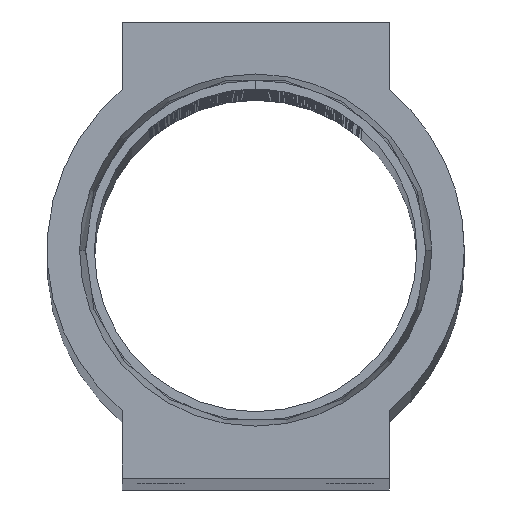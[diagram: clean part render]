
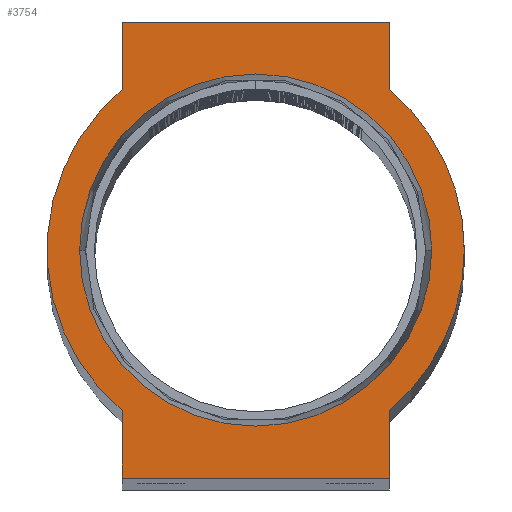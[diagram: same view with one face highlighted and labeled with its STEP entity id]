
A CAD part, top view. The second image highlights one B-rep face of the part: STEP entity #3754.
In plain terms, the highlighted planar face has unit normal (0, 0, 1).
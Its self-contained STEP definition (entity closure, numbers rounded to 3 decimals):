
#132 = EDGE_CURVE ( 'NONE', #14089, #6619, #5838, .T. ) ;
#184 = FACE_OUTER_BOUND ( 'NONE', #6209, .T. ) ;
#244 = CARTESIAN_POINT ( 'NONE',  ( 12., 14.407, 0. ) ) ;
#486 = DIRECTION ( 'NONE',  ( 0., 0., 1. ) ) ;
#906 = CARTESIAN_POINT ( 'NONE',  ( -12., 20.5, 0. ) ) ;
#1154 = EDGE_CURVE ( 'NONE', #11683, #10888, #9514, .T. ) ;
#1325 = ORIENTED_EDGE ( 'NONE', *, *, #5153, .T. ) ;
#1360 = DIRECTION ( 'NONE',  ( 0., 0., 1. ) ) ;
#1711 = DIRECTION ( 'NONE',  ( 1., 0., 0. ) ) ;
#2134 = CARTESIAN_POINT ( 'NONE',  ( 18.75, 0., 0. ) ) ;
#2178 = CARTESIAN_POINT ( 'NONE',  ( 0., 0., 0. ) ) ;
#2513 = DIRECTION ( 'NONE',  ( 0., 0., 1. ) ) ;
#2814 = LINE ( 'NONE', #11411, #13717 ) ;
#2864 = DIRECTION ( 'NONE',  ( 1., 0., 0. ) ) ;
#3545 = CARTESIAN_POINT ( 'NONE',  ( -12., 14.407, 0. ) ) ;
#3754 = ADVANCED_FACE ( 'NONE', ( #10059, #184 ), #9064, .T. ) ;
#3857 = VERTEX_POINT ( 'NONE', #2134 ) ;
#3893 = LINE ( 'NONE', #10435, #9406 ) ;
#4142 = ORIENTED_EDGE ( 'NONE', *, *, #1154, .F. ) ;
#4221 = ORIENTED_EDGE ( 'NONE', *, *, #11965, .T. ) ;
#4672 = EDGE_CURVE ( 'NONE', #7633, #13474, #9905, .T. ) ;
#4834 = EDGE_CURVE ( 'NONE', #10888, #11683, #10007, .T. ) ;
#5037 = DIRECTION ( 'NONE',  ( 0., -1., 0. ) ) ;
#5153 = EDGE_CURVE ( 'NONE', #6619, #9494, #2814, .T. ) ;
#5273 = AXIS2_PLACEMENT_3D ( 'NONE', #2178, #1360, #6854 ) ;
#5278 = DIRECTION ( 'NONE',  ( 1., 0., 0. ) ) ;
#5363 = CARTESIAN_POINT ( 'NONE',  ( 12., -14.407, 0. ) ) ;
#5427 = CARTESIAN_POINT ( 'NONE',  ( 12., 20.5, 0. ) ) ;
#5633 = DIRECTION ( 'NONE',  ( 0., 1., 0. ) ) ;
#5647 = ORIENTED_EDGE ( 'NONE', *, *, #13699, .T. ) ;
#5838 = LINE ( 'NONE', #7162, #13850 ) ;
#5969 = ORIENTED_EDGE ( 'NONE', *, *, #4672, .T. ) ;
#6096 = AXIS2_PLACEMENT_3D ( 'NONE', #7532, #9885, #5278 ) ;
#6209 = EDGE_LOOP ( 'NONE', ( #11758, #8629, #1325, #5647, #4221, #13199, #5969, #8223, #8131 ) ) ;
#6242 = EDGE_CURVE ( 'NONE', #13474, #3857, #9657, .T. ) ;
#6365 = DIRECTION ( 'NONE',  ( 0., 1., 0. ) ) ;
#6619 = VERTEX_POINT ( 'NONE', #906 ) ;
#6846 = CARTESIAN_POINT ( 'NONE',  ( 0., 0., 0. ) ) ;
#6854 = DIRECTION ( 'NONE',  ( 1., 0., 0. ) ) ;
#7162 = CARTESIAN_POINT ( 'NONE',  ( -12., 20.5, 0. ) ) ;
#7484 = CARTESIAN_POINT ( 'NONE',  ( 12., -20.5, 0. ) ) ;
#7525 = CARTESIAN_POINT ( 'NONE',  ( -15.827, 0., 0. ) ) ;
#7532 = CARTESIAN_POINT ( 'NONE',  ( 0., 0., 0. ) ) ;
#7627 = VERTEX_POINT ( 'NONE', #244 ) ;
#7633 = VERTEX_POINT ( 'NONE', #7836 ) ;
#7644 = CARTESIAN_POINT ( 'NONE',  ( 12., 20.5, 0. ) ) ;
#7836 = CARTESIAN_POINT ( 'NONE',  ( 12., -20.5, 0. ) ) ;
#7997 = CARTESIAN_POINT ( 'NONE',  ( 0., 0., 0. ) ) ;
#8131 = ORIENTED_EDGE ( 'NONE', *, *, #8528, .T. ) ;
#8223 = ORIENTED_EDGE ( 'NONE', *, *, #6242, .T. ) ;
#8232 = DIRECTION ( 'NONE',  ( 0., -1., 0. ) ) ;
#8528 = EDGE_CURVE ( 'NONE', #3857, #7627, #12871, .T. ) ;
#8629 = ORIENTED_EDGE ( 'NONE', *, *, #132, .T. ) ;
#8794 = DIRECTION ( 'NONE',  ( 1., 0., 0. ) ) ;
#9064 = PLANE ( 'NONE',  #11809 ) ;
#9094 = CARTESIAN_POINT ( 'NONE',  ( -12., -14.407, 0. ) ) ;
#9406 = VECTOR ( 'NONE', #8232, 1000. ) ;
#9416 = LINE ( 'NONE', #12617, #10541 ) ;
#9435 = CARTESIAN_POINT ( 'NONE',  ( -12., -20.5, 0. ) ) ;
#9494 = VERTEX_POINT ( 'NONE', #3545 ) ;
#9514 = CIRCLE ( 'NONE', #12234, 15.827 ) ;
#9657 = CIRCLE ( 'NONE', #10110, 18.75 ) ;
#9705 = CARTESIAN_POINT ( 'NONE',  ( 0., 0., 0. ) ) ;
#9733 = DIRECTION ( 'NONE',  ( 1., 0., 0. ) ) ;
#9800 = DIRECTION ( 'NONE',  ( 0., 0., 1. ) ) ;
#9843 = DIRECTION ( 'NONE',  ( 0., 0., 1. ) ) ;
#9885 = DIRECTION ( 'NONE',  ( 0., 0., 1. ) ) ;
#9905 = LINE ( 'NONE', #7484, #11383 ) ;
#10007 = CIRCLE ( 'NONE', #6096, 15.827 ) ;
#10059 = FACE_BOUND ( 'NONE', #14113, .T. ) ;
#10110 = AXIS2_PLACEMENT_3D ( 'NONE', #6846, #486, #10152 ) ;
#10152 = DIRECTION ( 'NONE',  ( 1., 0., 0. ) ) ;
#10343 = VERTEX_POINT ( 'NONE', #9435 ) ;
#10435 = CARTESIAN_POINT ( 'NONE',  ( -12., -20.5, 0. ) ) ;
#10541 = VECTOR ( 'NONE', #1711, 1000. ) ;
#10765 = EDGE_CURVE ( 'NONE', #7627, #14089, #13098, .T. ) ;
#10888 = VERTEX_POINT ( 'NONE', #7525 ) ;
#10959 = VECTOR ( 'NONE', #5633, 1000. ) ;
#11383 = VECTOR ( 'NONE', #6365, 1000. ) ;
#11411 = CARTESIAN_POINT ( 'NONE',  ( -12., 20.5, 0. ) ) ;
#11509 = DIRECTION ( 'NONE',  ( -1., 0., 0. ) ) ;
#11651 = ORIENTED_EDGE ( 'NONE', *, *, #4834, .F. ) ;
#11683 = VERTEX_POINT ( 'NONE', #12836 ) ;
#11758 = ORIENTED_EDGE ( 'NONE', *, *, #10765, .T. ) ;
#11809 = AXIS2_PLACEMENT_3D ( 'NONE', #7997, #2513, #2864 ) ;
#11965 = EDGE_CURVE ( 'NONE', #13786, #10343, #3893, .T. ) ;
#12234 = AXIS2_PLACEMENT_3D ( 'NONE', #9705, #9843, #8794 ) ;
#12419 = AXIS2_PLACEMENT_3D ( 'NONE', #14090, #9800, #9733 ) ;
#12617 = CARTESIAN_POINT ( 'NONE',  ( -12., -20.5, 0. ) ) ;
#12836 = CARTESIAN_POINT ( 'NONE',  ( 15.827, 0., 0. ) ) ;
#12871 = CIRCLE ( 'NONE', #12419, 18.75 ) ;
#13098 = LINE ( 'NONE', #5427, #10959 ) ;
#13199 = ORIENTED_EDGE ( 'NONE', *, *, #13282, .T. ) ;
#13282 = EDGE_CURVE ( 'NONE', #10343, #7633, #9416, .T. ) ;
#13474 = VERTEX_POINT ( 'NONE', #5363 ) ;
#13699 = EDGE_CURVE ( 'NONE', #9494, #13786, #13738, .T. ) ;
#13717 = VECTOR ( 'NONE', #5037, 1000. ) ;
#13738 = CIRCLE ( 'NONE', #5273, 18.75 ) ;
#13786 = VERTEX_POINT ( 'NONE', #9094 ) ;
#13850 = VECTOR ( 'NONE', #11509, 1000. ) ;
#14089 = VERTEX_POINT ( 'NONE', #7644 ) ;
#14090 = CARTESIAN_POINT ( 'NONE',  ( 0., 0., 0. ) ) ;
#14113 = EDGE_LOOP ( 'NONE', ( #4142, #11651 ) ) ;
